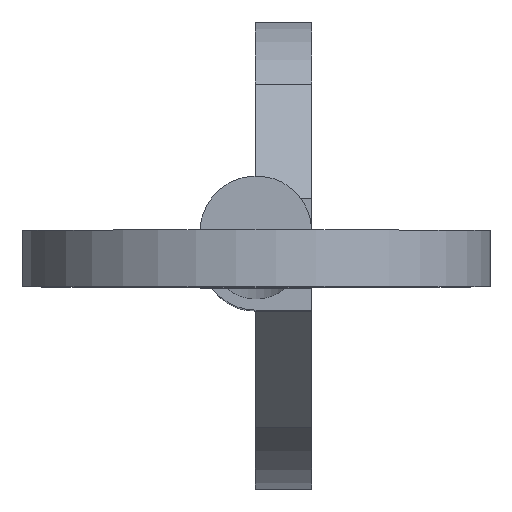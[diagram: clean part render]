
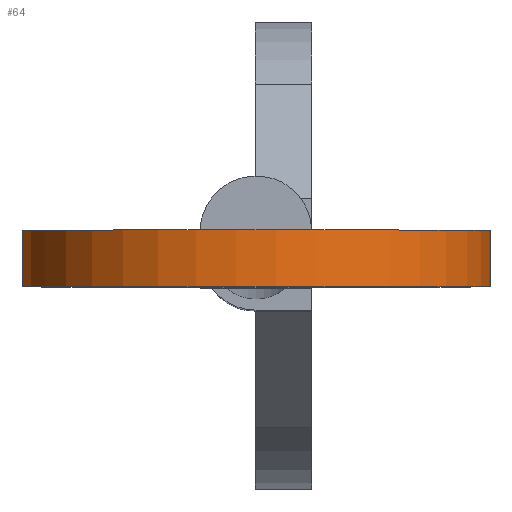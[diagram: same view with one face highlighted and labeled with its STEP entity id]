
A CAD part, top view. The second image highlights one B-rep face of the part: STEP entity #64.
In plain terms, the highlighted cylindrical face has radius 4.19 mm (diameter 8.38 mm), a partial arc.
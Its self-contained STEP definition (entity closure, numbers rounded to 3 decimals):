
#37 = CARTESIAN_POINT ( 'NONE',  ( -3.066, -0.995, 124.145 ) ) ;
#41 = ORIENTED_EDGE ( 'NONE', *, *, #238, .T. ) ;
#56 = CARTESIAN_POINT ( 'NONE',  ( 3.066, 0.015, 124.145 ) ) ;
#64 = ADVANCED_FACE ( 'NONE', ( #239 ), #375, .T. ) ;
#67 = LINE ( 'NONE', #329, #461 ) ;
#71 = CARTESIAN_POINT ( 'NONE',  ( 0., 0.015, 127. ) ) ;
#107 = CARTESIAN_POINT ( 'NONE',  ( 0., 0.015, 127. ) ) ;
#193 = ORIENTED_EDGE ( 'NONE', *, *, #494, .F. ) ;
#197 = VERTEX_POINT ( 'NONE', #456 ) ;
#198 = EDGE_CURVE ( 'NONE', #597, #647, #252, .T. ) ;
#229 = DIRECTION ( 'NONE',  ( 0., 0., -1. ) ) ;
#238 = EDGE_CURVE ( 'NONE', #647, #670, #67, .T. ) ;
#239 = FACE_OUTER_BOUND ( 'NONE', #343, .T. ) ;
#252 = CIRCLE ( 'NONE', #794, 4.19 ) ;
#308 = AXIS2_PLACEMENT_3D ( 'NONE', #628, #369, #229 ) ;
#321 = DIRECTION ( 'NONE',  ( 0., -1., 0. ) ) ;
#329 = CARTESIAN_POINT ( 'NONE',  ( -3.066, 0.015, 124.145 ) ) ;
#343 = EDGE_LOOP ( 'NONE', ( #846, #193, #417, #41 ) ) ;
#363 = VECTOR ( 'NONE', #321, 1000. ) ;
#365 = CARTESIAN_POINT ( 'NONE',  ( 3.066, 0.015, 124.145 ) ) ;
#369 = DIRECTION ( 'NONE',  ( 0., -1., 0. ) ) ;
#375 = CYLINDRICAL_SURFACE ( 'NONE', #474, 4.19 ) ;
#417 = ORIENTED_EDGE ( 'NONE', *, *, #198, .T. ) ;
#456 = CARTESIAN_POINT ( 'NONE',  ( 3.066, -0.995, 124.145 ) ) ;
#457 = EDGE_CURVE ( 'NONE', #197, #670, #680, .T. ) ;
#461 = VECTOR ( 'NONE', #618, 1000. ) ;
#474 = AXIS2_PLACEMENT_3D ( 'NONE', #107, #701, #772 ) ;
#494 = EDGE_CURVE ( 'NONE', #597, #197, #764, .T. ) ;
#597 = VERTEX_POINT ( 'NONE', #365 ) ;
#618 = DIRECTION ( 'NONE',  ( 0., -1., 0. ) ) ;
#628 = CARTESIAN_POINT ( 'NONE',  ( 0., -0.995, 127. ) ) ;
#647 = VERTEX_POINT ( 'NONE', #677 ) ;
#670 = VERTEX_POINT ( 'NONE', #37 ) ;
#677 = CARTESIAN_POINT ( 'NONE',  ( -3.066, 0.015, 124.145 ) ) ;
#680 = CIRCLE ( 'NONE', #308, 4.19 ) ;
#701 = DIRECTION ( 'NONE',  ( 0., -1., 0. ) ) ;
#764 = LINE ( 'NONE', #56, #363 ) ;
#772 = DIRECTION ( 'NONE',  ( 0., 0., -1. ) ) ;
#791 = DIRECTION ( 'NONE',  ( 0., -1., 0. ) ) ;
#794 = AXIS2_PLACEMENT_3D ( 'NONE', #71, #791, #852 ) ;
#846 = ORIENTED_EDGE ( 'NONE', *, *, #457, .F. ) ;
#852 = DIRECTION ( 'NONE',  ( 0., 0., -1. ) ) ;
